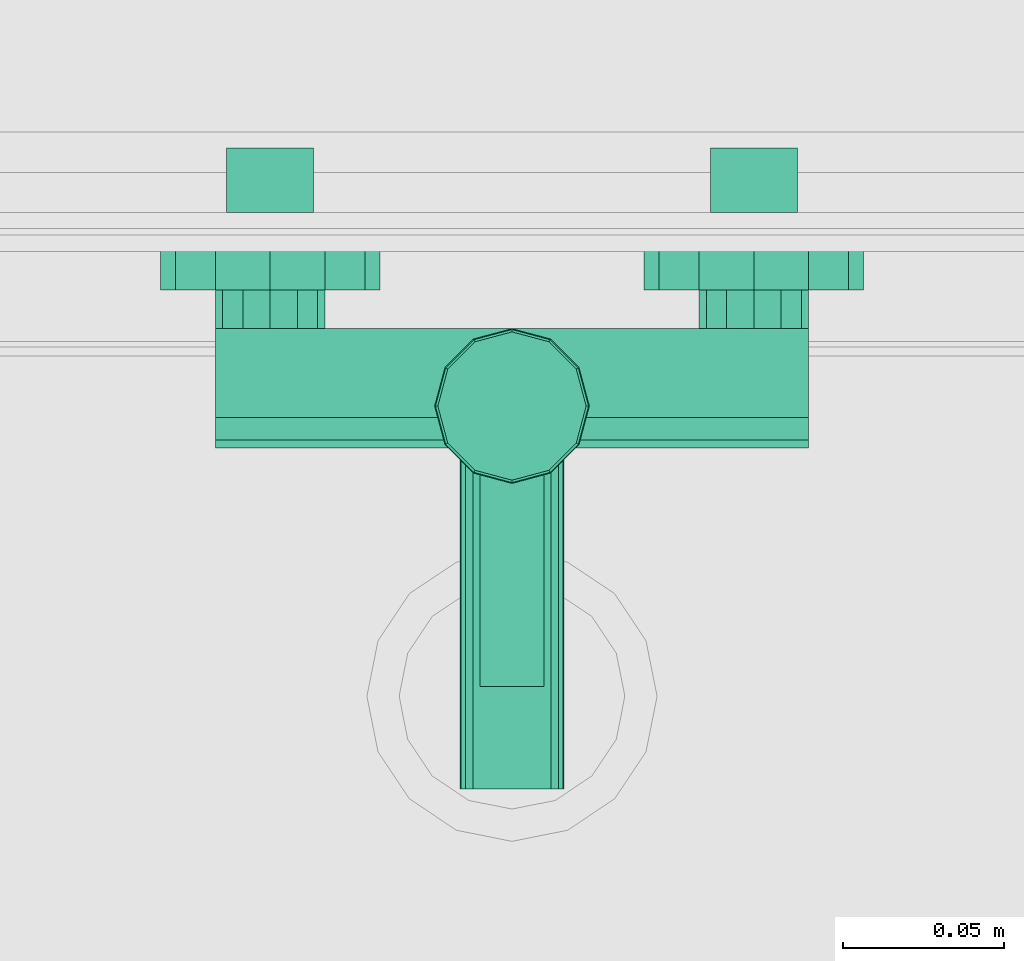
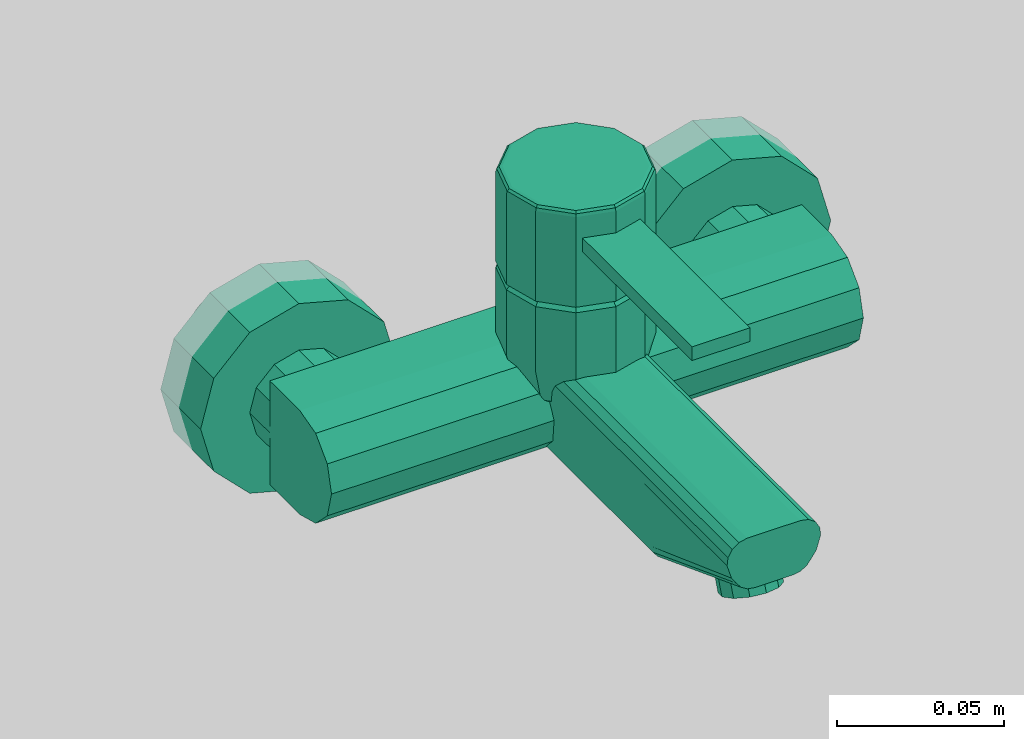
# One storey, part 122 of 165: 1 flow storage device.
"""IFC2X3 building model written with IfcOpenShell, lengths in millimetres."""

from ifc_helpers import new_model, entity, si_unit, converted_unit, derived_unit, money_unit, direction, frame, origin_with_axes, place, context, subcontext, project, spatial, open_shell, faceted_brep, surface_model, source, transform, mapped, type_object, type_shapes, element, save


model = new_model("IFC2X3")

# Units and contexts
model_context = context("Model", 3, precision=0.01, world=origin_with_axes(), true_north=direction((0.0, 1.0)))
body_context = subcontext(model_context, "Body", "Model", "MODEL_VIEW")
ifc_project = project(units=[si_unit("LENGTHUNIT", "METRE", prefix="MILLI"), si_unit("AREAUNIT", "SQUARE_METRE"), si_unit("VOLUMEUNIT", "CUBIC_METRE"), converted_unit("PLANEANGLEUNIT", "DEGREE", entity("IfcPlaneAngleMeasure", 0.0174532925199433), si_unit("PLANEANGLEUNIT", "RADIAN"), dimensions=[0, 0, 0, 0, 0, 0, 0]), money_unit("EUR"), converted_unit("TIMEUNIT", "Year", entity("IfcTimeMeasure", 31556926.0), si_unit("TIMEUNIT", "SECOND"), dimensions=[0, 0, 1, 0, 0, 0, 0]), si_unit("MASSUNIT", "GRAM", prefix="KILO"), si_unit("THERMODYNAMICTEMPERATUREUNIT", "DEGREE_CELSIUS"), si_unit("LUMINOUSINTENSITYUNIT", "LUMEN"), si_unit("ENERGYUNIT", "JOULE", prefix="MEGA"), derived_unit("THERMALCONDUCTANCEUNIT", [(si_unit("POWERUNIT", "WATT"), 1), (si_unit("LENGTHUNIT", "METRE"), -1), (si_unit("THERMODYNAMICTEMPERATUREUNIT", "KELVIN"), -1)]), derived_unit("SPECIFICHEATCAPACITYUNIT", [(si_unit("ENERGYUNIT", "JOULE"), 1), (si_unit("MASSUNIT", "GRAM", prefix="KILO"), -1), (si_unit("THERMODYNAMICTEMPERATUREUNIT", "KELVIN"), -1)]), derived_unit("MASSDENSITYUNIT", [(si_unit("MASSUNIT", "GRAM", prefix="KILO"), 1), (si_unit("VOLUMEUNIT", "CUBIC_METRE"), -1)])], contexts=[model_context])

# Site, building, storey
site_placement = place(None, origin_with_axes())
site = spatial("IfcSite", under=ifc_project, at=site_placement, Name="Site", CompositionType="ELEMENT")
building_placement = place(site_placement, origin_with_axes())
building = spatial("IfcBuilding", under=site, at=building_placement, Name="Naam gebouw", CompositionType="ELEMENT")
storey_placement = place(building_placement, origin_with_axes())
storey = spatial("IfcBuildingStorey", under=building, at=storey_placement, Name="Begane grond", CompositionType="ELEMENT", Elevation=0.0)

# Flow storage device
tank_type = type_object("IfcTankType", Name="Kraan wand 26", PredefinedType="EXPANSION")
shared_shape = source(origin_with_axes(), body_context, "Body", "SurfaceModel", [
    faceted_brep([(-45.55513627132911, 0.0, 1183.0), (-58.00000000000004, 0.0, 1170.555136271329), (-75.00000000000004, 0.0, 1166.0), (-92.00000000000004, 0.0, 1170.555136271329), (-104.4448637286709, 0.0, 1183.0), (-109.0, 0.0, 1200.0), (-104.4448637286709, 0.0, 1217.0), (-92.0, 0.0, 1229.444863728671), (-75.0, 0.0, 1234.0), (-58.0, 0.0, 1229.444863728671), (-45.5551362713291, 0.0, 1217.0), (-41.00000000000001, 0.0, 1200.0), (-45.55513627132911, -24.0, 1183.0), (-58.00000000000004, -24.0, 1170.555136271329), (-75.00000000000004, -24.0, 1166.0), (-92.00000000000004, -24.0, 1170.555136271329), (-104.4448637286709, -24.0, 1183.0), (-109.0, -24.0, 1200.0), (-104.4448637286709, -24.0, 1217.0), (-92.0, -24.0, 1229.444863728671), (-75.0, -24.0, 1234.0), (-58.0, -24.0, 1229.444863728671), (-45.5551362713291, -24.0, 1217.0), (-41.00000000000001, -24.0, 1200.0)], [[[0, 1, 2, 3, 4, 5, 6, 7, 8, 9, 10, 11]], [[1, 0, 12, 13]], [[2, 1, 13, 14]], [[3, 2, 14, 15]], [[4, 3, 15, 16]], [[5, 4, 16, 17]], [[6, 5, 17, 18]], [[7, 6, 18, 19]], [[8, 7, 19, 20]], [[9, 8, 20, 21]], [[10, 9, 21, 22]], [[11, 10, 22, 23]], [[0, 11, 23, 12]], [[12, 23, 22, 21, 20, 19, 18, 17, 16, 15, 14, 13]]]),
    faceted_brep([(-60.27756813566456, -24.0, 1191.5), (-66.50000000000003, -24.0, 1185.277568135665), (-75.00000000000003, -24.0, 1183.0), (-83.50000000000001, -24.0, 1185.277568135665), (-89.72243186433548, -24.0, 1191.5), (-92.00000000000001, -24.0, 1200.0), (-89.72243186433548, -24.0, 1208.5), (-83.5, -24.0, 1214.722431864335), (-75.00000000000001, -24.0, 1217.0), (-66.5, -24.0, 1214.722431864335), (-60.27756813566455, -24.0, 1208.5), (-58.00000000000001, -24.0, 1200.0), (-60.27756813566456, -36.00000000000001, 1191.5), (-66.50000000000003, -36.00000000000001, 1185.277568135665), (-75.00000000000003, -36.00000000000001, 1183.0), (-83.50000000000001, -36.00000000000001, 1185.277568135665), (-89.72243186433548, -36.00000000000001, 1191.5), (-92.00000000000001, -36.00000000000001, 1200.0), (-89.72243186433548, -36.00000000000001, 1208.5), (-83.5, -36.0, 1214.722431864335), (-75.00000000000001, -36.0, 1217.0), (-66.5, -36.0, 1214.722431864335), (-60.27756813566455, -36.00000000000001, 1208.5), (-58.00000000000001, -36.00000000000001, 1200.0)], [[[0, 1, 2, 3, 4, 5, 6, 7, 8, 9, 10, 11]], [[1, 0, 12, 13]], [[2, 1, 13, 14]], [[3, 2, 14, 15]], [[4, 3, 15, 16]], [[5, 4, 16, 17]], [[6, 5, 17, 18]], [[7, 6, 18, 19]], [[8, 7, 19, 20]], [[9, 8, 20, 21]], [[10, 9, 21, 22]], [[11, 10, 22, 23]], [[0, 11, 23, 12]], [[12, 23, 22, 21, 20, 19, 18, 17, 16, 15, 14, 13]]]),
    faceted_brep([(45.55513627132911, 0.0, 1183.0), (41.00000000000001, 0.0, 1200.0), (45.5551362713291, 0.0, 1217.0), (58.0, 0.0, 1229.444863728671), (75.0, 0.0, 1234.0), (92.0, 0.0, 1229.444863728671), (104.4448637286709, 0.0, 1217.0), (109.0, 0.0, 1200.0), (104.4448637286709, 0.0, 1183.0), (92.00000000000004, 0.0, 1170.555136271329), (75.00000000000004, 0.0, 1166.0), (58.00000000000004, 0.0, 1170.555136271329), (45.55513627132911, -24.0, 1183.0), (41.00000000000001, -24.0, 1200.0), (45.5551362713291, -24.0, 1217.0), (58.0, -24.0, 1229.444863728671), (75.0, -24.0, 1234.0), (92.0, -24.0, 1229.444863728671), (104.4448637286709, -24.0, 1217.0), (109.0, -24.0, 1200.0), (104.4448637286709, -24.0, 1183.0), (92.00000000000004, -24.0, 1170.555136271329), (75.00000000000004, -24.0, 1166.0), (58.00000000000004, -24.0, 1170.555136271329)], [[[0, 1, 2, 3, 4, 5, 6, 7, 8, 9, 10, 11]], [[0, 12, 13, 1]], [[1, 13, 14, 2]], [[2, 14, 15, 3]], [[3, 15, 16, 4]], [[4, 16, 17, 5]], [[5, 17, 18, 6]], [[6, 18, 19, 7]], [[7, 19, 20, 8]], [[8, 20, 21, 9]], [[9, 21, 22, 10]], [[10, 22, 23, 11]], [[11, 23, 12, 0]], [[12, 23, 22, 21, 20, 19, 18, 17, 16, 15, 14, 13]]]),
    faceted_brep([(60.27756813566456, -24.0, 1191.5), (58.00000000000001, -24.0, 1200.0), (60.27756813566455, -24.0, 1208.5), (66.5, -24.0, 1214.722431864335), (75.00000000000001, -24.0, 1217.0), (83.5, -24.0, 1214.722431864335), (89.72243186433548, -24.0, 1208.5), (92.00000000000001, -24.0, 1200.0), (89.72243186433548, -24.0, 1191.5), (83.50000000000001, -24.0, 1185.277568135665), (75.00000000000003, -24.0, 1183.0), (66.50000000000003, -24.0, 1185.277568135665), (60.27756813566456, -36.00000000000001, 1191.5), (58.00000000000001, -36.00000000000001, 1200.0), (60.27756813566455, -36.00000000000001, 1208.5), (66.5, -36.0, 1214.722431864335), (75.00000000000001, -36.0, 1217.0), (83.5, -36.0, 1214.722431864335), (89.72243186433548, -36.00000000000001, 1208.5), (92.00000000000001, -36.00000000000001, 1200.0), (89.72243186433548, -36.00000000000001, 1191.5), (83.50000000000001, -36.00000000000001, 1185.277568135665), (75.00000000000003, -36.00000000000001, 1183.0), (66.50000000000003, -36.00000000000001, 1185.277568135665)], [[[0, 1, 2, 3, 4, 5, 6, 7, 8, 9, 10, 11]], [[0, 12, 13, 1]], [[1, 13, 14, 2]], [[2, 14, 15, 3]], [[3, 15, 16, 4]], [[4, 16, 17, 5]], [[5, 17, 18, 6]], [[6, 18, 19, 7]], [[7, 19, 20, 8]], [[8, 20, 21, 9]], [[9, 21, 22, 10]], [[10, 22, 23, 11]], [[11, 23, 12, 0]], [[12, 23, 22, 21, 20, 19, 18, 17, 16, 15, 14, 13]]]),
    faceted_brep([(22.39230484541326, -54.0, 1219.0), (23.56921938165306, -59.99999999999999, 1217.392304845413), (22.3801085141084, -63.5, 1216.454482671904), (92.0, -63.5, 1216.454482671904), (92.0, -54.0, 1219.0), (24.0, -59.99999999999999, 1219.0), (20.78460969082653, -72.0, 1219.0), (18.42264973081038, -70.63632178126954, 1208.821367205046), (18.65321248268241, -70.45448267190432, 1209.5), (92.0, -70.45448267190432, 1209.5), (92.0, -36.00000000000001, 1181.0), (92.0, -36.00000000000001, 1219.0), (92.0, -73.00000000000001, 1200.0), (92.0, -70.45448267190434, 1190.5), (92.0, -63.5, 1183.545517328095), (92.0, -54.00000000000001, 1181.0), (20.78460969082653, -47.99999999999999, 1219.0), (0.0, -36.00000000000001, 1219.0), (12.0, -39.21539030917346, 1219.0), (20.78460969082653, -47.99999999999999, 1243.0), (24.0, -59.99999999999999, 1243.0), (20.78460969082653, -72.0, 1243.0), (17.26794919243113, -71.12435565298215, 1207.0), (12.00000000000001, -80.78460969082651, 1219.0), (11.92314238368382, -80.65148839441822, 1218.426326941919), (12.07189135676, -80.49116546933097, 1218.39470631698), (14.42686544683, -77.50984837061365, 1216.68350539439), (15.88213414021, -75.13176694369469, 1214.16233412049), (16.18602173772, -73.76818909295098, 1211.26720650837), (15.73684210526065, -72.65546274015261, 1207.0), (15.6314139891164, -71.39272474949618, 1205.998432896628), (14.99999999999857, -73.00000000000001, 1200.0), (-92.0, -36.00000000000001, 1181.0), (-92.0, -36.00000000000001, 1219.0), (14.00000000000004, -70.45448267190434, 1190.5), (12.93483876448, -64.77581392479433, 1184.82133125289), (11.95567316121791, -63.5, 1183.545517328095), (13.65970594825, -67.22168918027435, 1187.26720650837), (9.206486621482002, -55.73480068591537, 1181.46483844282), (6.698167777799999, -54.00000000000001, 1181.0), (11.38167317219, -60.70880215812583, 1182.79761812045), (-6.698167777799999, -54.00000000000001, 1181.0), (-92.0, -54.00000000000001, 1181.0), (6.698167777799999, -128.7, 1181.0), (-6.698167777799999, -128.7, 1181.0), (0.0, -36.00000000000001, 1243.0), (12.0, -39.21539030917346, 1243.0), (19.05255888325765, -48.99999999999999, 1245.0), (22.0, -59.99999999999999, 1245.0), (19.05255888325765, -71.0, 1245.0), (12.00000000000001, -80.78460969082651, 1243.0), (9.224483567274, -81.52830707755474, 1219.0), (9.224483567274, -178.7, 1219.0), (12.07189135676, -178.7, 1218.39470631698), (14.42686544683, -178.7, 1216.68350539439), (15.88213414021, -178.7, 1214.16233412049), (16.18602173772, -178.7, 1211.26720650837), (13.65970594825, -128.7, 1187.26720650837), (-92.0, -54.0, 1219.0), (-92.0, -63.5, 1183.545517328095), (-92.0, -70.45448267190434, 1190.5), (-92.0, -73.00000000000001, 1200.0), (-92.0, -70.45448267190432, 1209.5), (-92.0, -63.5, 1216.454482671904), (-12.00000000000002, -39.21539030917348, 1219.0), (-22.39230484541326, -54.0, 1219.0), (-20.78460969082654, -48.00000000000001, 1219.0), (12.93483876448, -128.7, 1184.82133125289), (11.38167317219, -128.7, 1182.79761812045), (9.206486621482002, -128.7, 1181.46483844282), (-11.38167317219, -60.70880215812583, 1182.79761812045), (-11.95567316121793, -63.5, 1183.545517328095), (-9.206486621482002, -55.73480068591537, 1181.46483844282), (-6.698167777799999, -156.6122297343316, 1191.606647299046), (6.698167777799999, -156.6122297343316, 1191.606647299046), (5.000000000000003, -155.02481037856, 1191.003427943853), (0.0, -153.7724378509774, 1190.527526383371), (-4.999999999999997, -155.02481037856, 1191.003427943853), (-9.206486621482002, -128.7, 1181.46483844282), (-12.00000000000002, -39.21539030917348, 1243.0), (0.0, -38.00000000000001, 1245.0), (11.0, -40.94744111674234, 1245.0), (-20.78460969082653, -47.99999999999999, 1245.0), (-12.0, -39.21539030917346, 1245.0), (0.0, -36.00000000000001, 1245.0), (12.00000000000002, -39.21539030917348, 1245.0), (20.78460969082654, -48.00000000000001, 1245.0), (24.0, -60.00000000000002, 1245.0), (20.78460969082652, -72.00000000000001, 1245.0), (11.99999999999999, -80.78460969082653, 1245.0), (0.0, -83.99999999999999, 1245.0), (-12.00000000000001, -80.78460969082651, 1245.0), (-20.78460969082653, -72.0, 1245.0), (-24.0, -59.99999999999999, 1245.0), (11.00000000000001, -79.05255888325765, 1245.0), (-11.00000000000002, -40.94744111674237, 1245.0), (-19.05255888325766, -49.00000000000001, 1245.0), (-22.0, -60.00000000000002, 1245.0), (-19.05255888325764, -71.00000000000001, 1245.0), (-10.99999999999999, -79.05255888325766, 1245.0), (0.0, -81.99999999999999, 1245.0), (0.0, -83.99999999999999, 1243.0), (0.0, -83.99999999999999, 1219.0), (-15.88213414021, -178.7, 1214.16233412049), (-16.18602173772, -178.7, 1211.26720650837), (-14.65970594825, -178.7, 1206.26720650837), (-12.93483876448, -178.7, 1203.82133125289), (-11.38167317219, -178.7, 1201.79761812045), (-9.206486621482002, -178.7, 1200.46483844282), (-6.698167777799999, -178.7, 1200.0), (6.698167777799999, -178.7, 1200.0), (9.206486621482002, -178.7, 1200.46483844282), (11.38167317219, -178.7, 1201.79761812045), (12.93483876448, -178.7, 1203.82133125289), (14.65970594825, -178.7, 1206.26720650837), (-9.224483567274, -178.7, 1219.0), (-12.07189135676, -178.7, 1218.39470631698), (-14.42686544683, -178.7, 1216.68350539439), (-9.224483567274, -81.52830707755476, 1219.0), (-13.65970594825, -67.22168918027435, 1187.26720650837), (-14.00000000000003, -70.45448267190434, 1190.5), (-12.93483876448, -64.77581392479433, 1184.82133125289), (-14.99999999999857, -73.00000000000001, 1200.0), (-18.42264973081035, -70.63632178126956, 1208.821367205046), (-18.65321248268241, -70.45448267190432, 1209.5), (-15.63141398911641, -71.39272474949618, 1205.998432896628), (-17.26794919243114, -71.12435565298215, 1207.0), (-22.38010851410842, -63.5, 1216.454482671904), (-23.56921938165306, -60.00000000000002, 1217.392304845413), (-24.0, -60.00000000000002, 1219.0), (-24.0, -60.00000000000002, 1243.0), (-20.78460969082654, -48.00000000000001, 1243.0), (9.206486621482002, -160.1976250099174, 1193.433935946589), (8.660254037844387, -158.3256179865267, 1192.621346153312), (9.206486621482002, -165.7342214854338, 1195.537842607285), (10.0, -162.8044792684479, 1194.910741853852), (-11.38167317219, -128.7, 1182.79761812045), (-12.93483876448, -128.7, 1184.82133125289), (-9.206486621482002, -160.1976250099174, 1193.433935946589), (-8.660254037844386, -158.3256179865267, 1192.621346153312), (8.660254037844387, -160.222444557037, 1187.629697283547), (5.000000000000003, -156.8008991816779, 1186.329510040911), (0.0, -155.5485266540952, 1185.85360848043), (-4.999999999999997, -156.8008991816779, 1186.329510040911), (-8.660254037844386, -160.222444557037, 1187.629697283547), (-20.78460969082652, -47.99999999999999, 1278.0), (-12.0, -39.21539030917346, 1278.0), (0.0, -36.00000000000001, 1278.0), (12.00000000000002, -39.21539030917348, 1278.0), (20.78460969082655, -48.00000000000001, 1278.0), (24.0, -60.00000000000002, 1278.0), (20.78460969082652, -72.00000000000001, 1278.0), (11.99999999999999, -80.78460969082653, 1278.0), (0.0, -83.99999999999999, 1278.0), (0.0, -83.99999999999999, 1270.0), (10.0, -81.32050807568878, 1270.0), (10.0, -81.32050807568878, 1265.0), (0.0, -83.99999999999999, 1265.0), (-10.0, -81.32050807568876, 1265.0), (-10.0, -81.32050807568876, 1270.0), (-12.00000000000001, -80.78460969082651, 1278.0), (-20.78460969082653, -72.0, 1278.0), (-24.0, -59.99999999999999, 1278.0), (-20.78460969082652, -72.00000000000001, 1243.0), (-11.99999999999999, -80.78460969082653, 1243.0), (-11.99999999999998, -80.78460969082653, 1219.0), (-15.88213414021, -75.1317669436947, 1214.16233412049), (-16.18602173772, -73.76818909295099, 1211.26720650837), (-16.18602173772, -128.7, 1211.26720650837), (-13.65970594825, -128.7, 1187.26720650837), (-10.0, -162.8044792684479, 1194.910741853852), (-9.206486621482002, -165.7342214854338, 1195.537842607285), (-8.66025403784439, -167.6734537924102, 1196.173523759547), (-6.698167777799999, -169.6283175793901, 1196.552760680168), (0.0, -172.4681094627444, 1197.631881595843), (4.999999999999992, -171.2157369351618, 1197.155980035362), (6.698167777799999, -169.6283175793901, 1196.552760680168), (-5.000000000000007, -171.2157369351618, 1197.155980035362), (8.660254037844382, -167.6734537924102, 1196.173523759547), (-11.92314238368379, -80.65148839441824, 1218.426326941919), (-12.07189135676, -80.49116546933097, 1218.39470631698), (-14.42686544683, -77.50984837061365, 1216.68350539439), (-15.73684210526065, -72.65546274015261, 1207.0), (-20.78460969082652, -72.00000000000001, 1219.0), (10.0, -164.8963624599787, 1189.405786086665), (8.660254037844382, -169.5702803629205, 1191.181874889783), (-10.0, -164.8963624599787, 1189.405786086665), (4.999999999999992, -172.9918257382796, 1192.48206213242), (0.0, -174.2441982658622, 1192.957963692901), (-5.000000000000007, -172.9918257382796, 1192.48206213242), (-8.66025403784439, -169.5702803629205, 1191.181874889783), (-20.55255888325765, -48.13397459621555, 1279.0), (-11.86602540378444, -39.44744111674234, 1279.0), (0.0, -36.26794919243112, 1279.0), (11.86602540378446, -39.44744111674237, 1279.0), (20.55255888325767, -48.13397459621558, 1279.0), (23.73205080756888, -60.00000000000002, 1279.0), (20.55255888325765, -71.86602540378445, 1279.0), (11.86602540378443, -80.55255888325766, 1279.0), (10.0, -147.0, 1270.0), (-10.0, -147.0, 1270.0), (10.0, -147.0, 1265.0), (-10.0, -147.0, 1265.0), (0.0, -83.73205080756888, 1279.0), (-11.86602540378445, -80.55255888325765, 1279.0), (-20.55255888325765, -71.86602540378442, 1279.0), (-23.73205080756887, -59.99999999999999, 1279.0), (-19.91858428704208, -48.49999999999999, 1279.732050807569), (-11.5, -40.08141571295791, 1279.732050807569), (0.0, -37.00000000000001, 1279.732050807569), (11.50000000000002, -40.08141571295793, 1279.732050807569), (19.9185842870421, -48.50000000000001, 1279.732050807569), (23.0, -60.00000000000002, 1279.732050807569), (19.91858428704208, -71.50000000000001, 1279.732050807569), (11.49999999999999, -79.9185842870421, 1279.732050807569), (0.0, -82.99999999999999, 1279.732050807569), (-11.50000000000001, -79.91858428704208, 1279.732050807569), (-19.91858428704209, -71.5, 1279.732050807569), (-23.0, -59.99999999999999, 1279.732050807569), (-19.05255888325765, -48.99999999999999, 1280.0), (-11.0, -40.94744111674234, 1280.0), (0.0, -38.00000000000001, 1280.0), (11.00000000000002, -40.94744111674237, 1280.0), (19.05255888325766, -49.00000000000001, 1280.0), (22.0, -60.00000000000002, 1280.0), (19.05255888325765, -71.00000000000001, 1280.0), (10.99999999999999, -79.05255888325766, 1280.0), (0.0, -81.99999999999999, 1280.0), (-11.00000000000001, -79.05255888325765, 1280.0), (-19.05255888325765, -71.0, 1280.0), (-22.0, -59.99999999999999, 1280.0), (0.0, -60.0, 1280.0)], [[[0, 1, 2, 3, 4]], [[1, 0, 5]], [[2, 1, 5, 6, 7, 8]], [[2, 8, 9, 3]], [[10, 11, 4, 3, 9, 12, 13, 14, 15]], [[16, 0, 4, 11, 17, 18]], [[0, 16, 19, 20, 5]], [[20, 21, 6, 5]], [[22, 7, 6, 23, 24, 25, 26, 27, 28, 29]], [[30, 31, 12, 9, 8, 7, 22]], [[10, 32, 33, 17, 11]], [[31, 34, 13, 12]], [[35, 36, 14, 13, 34, 37]], [[38, 39, 15, 14, 36, 40]], [[41, 42, 32, 10, 15, 39, 43, 44]], [[18, 17, 45, 46]], [[16, 18, 46, 19]], [[19, 47, 48, 20]], [[20, 48, 49, 21]], [[21, 50, 23, 6]], [[23, 51, 24]], [[52, 53, 25, 24, 51]], [[53, 54, 26, 25]], [[54, 55, 27, 26]], [[56, 28, 27, 55]], [[31, 30, 29, 28, 56, 57, 37, 34]], [[30, 22, 29]], [[58, 33, 32, 42, 59, 60, 61, 62, 63]], [[64, 17, 33, 58, 65, 66]], [[36, 35, 67, 68, 40]], [[35, 37, 57, 67]], [[39, 38, 69, 43]], [[38, 40, 68, 69]], [[70, 71, 59, 42, 41, 72]], [[73, 44, 43, 74, 75, 76, 77]], [[72, 41, 44, 78]], [[17, 64, 79, 45]], [[45, 80, 81, 46]], [[46, 81, 47, 19]], [[82, 83, 84, 85, 86, 87, 88, 89, 90, 91, 92, 93], [94, 49, 48, 47, 81, 80, 95, 96, 97, 98, 99, 100]], [[21, 49, 94, 50]], [[101, 102, 51, 23, 50]], [[103, 104, 105, 106, 107, 108, 109, 110, 111, 112, 113, 114, 56, 55, 54, 53, 52, 115, 116, 117]], [[115, 52, 51, 102, 118]], [[56, 114, 57]], [[119, 120, 60, 59, 71, 121]], [[120, 122, 61, 60]], [[123, 124, 62, 61, 122, 125, 126]], [[124, 127, 63, 62]], [[128, 65, 58, 63, 127]], [[66, 65, 129, 130, 131]], [[64, 66, 131, 79]], [[112, 68, 67, 113]], [[114, 67, 57]], [[74, 43, 69, 132, 133]], [[132, 69, 68, 112, 111, 134, 135]], [[71, 70, 136, 137, 121]], [[70, 72, 78, 136]], [[138, 78, 44, 73, 139]], [[75, 74, 133, 140, 141]], [[142, 76, 75, 141]], [[143, 77, 76, 142]], [[139, 73, 77, 143, 144]], [[79, 95, 80, 45]], [[83, 82, 145, 146]], [[84, 83, 146, 147]], [[85, 84, 147, 148]], [[86, 85, 148, 149]], [[87, 86, 149, 150]], [[88, 87, 150, 151]], [[89, 88, 151, 152]], [[153, 154, 155, 156, 157, 90, 89, 152]], [[158, 159, 154, 153, 160, 91, 90, 157]], [[92, 91, 160, 161]], [[93, 92, 161, 162]], [[82, 93, 162, 145]], [[131, 96, 95, 79]], [[130, 97, 96, 131]], [[163, 98, 97, 130]], [[164, 99, 98, 163]], [[101, 100, 99, 164]], [[50, 94, 100, 101]], [[165, 118, 102, 101, 164]], [[104, 103, 166, 167, 168]], [[105, 104, 168]], [[106, 105, 169]], [[106, 137, 136, 107]], [[107, 136, 78, 138, 170, 171, 108]], [[171, 172, 173, 109, 108]], [[174, 175, 176, 110, 109, 173, 177]], [[176, 178, 134, 111, 110]], [[114, 113, 67]], [[116, 115, 118, 179, 180]], [[117, 116, 180, 181]], [[103, 117, 181, 166]], [[120, 119, 169, 168, 167, 182, 125, 122]], [[119, 121, 137, 169]], [[124, 123, 183, 129, 128, 127]], [[126, 125, 182]], [[123, 126, 182, 167, 166, 181, 180, 179, 165, 183]], [[65, 128, 129]], [[163, 130, 129, 183]], [[133, 132, 135, 184, 140]], [[135, 134, 178, 185, 184]], [[170, 138, 139, 144, 186]], [[140, 184, 185, 187, 188, 189, 190, 186, 144, 143, 142, 141]], [[146, 145, 191, 192]], [[147, 146, 192, 193]], [[148, 147, 193, 194]], [[149, 148, 194, 195]], [[150, 149, 195, 196]], [[151, 150, 196, 197]], [[152, 151, 197, 198]], [[199, 155, 154, 159, 200]], [[201, 156, 155, 199]], [[158, 157, 156, 201, 202]], [[153, 152, 198, 203]], [[200, 159, 158, 202]], [[160, 153, 203, 204]], [[161, 160, 204, 205]], [[162, 161, 205, 206]], [[145, 162, 206, 191]], [[164, 163, 183, 165]], [[165, 179, 118]], [[105, 168, 169]], [[106, 169, 137]], [[172, 171, 170, 186, 190]], [[177, 173, 172, 190, 189]], [[187, 175, 174, 188]], [[178, 176, 175, 187, 185]], [[188, 174, 177, 189]], [[192, 191, 207, 208]], [[193, 192, 208, 209]], [[194, 193, 209, 210]], [[195, 194, 210, 211]], [[196, 195, 211, 212]], [[197, 196, 212, 213]], [[198, 197, 213, 214]], [[199, 200, 202, 201]], [[203, 198, 214, 215]], [[204, 203, 215, 216]], [[205, 204, 216, 217]], [[206, 205, 217, 218]], [[191, 206, 218, 207]], [[208, 207, 219, 220]], [[209, 208, 220, 221]], [[210, 209, 221, 222]], [[211, 210, 222, 223]], [[212, 211, 223, 224]], [[213, 212, 224, 225]], [[214, 213, 225, 226]], [[215, 214, 226, 227]], [[216, 215, 227, 228]], [[217, 216, 228, 229]], [[218, 217, 229, 230]], [[207, 218, 230, 219]], [[220, 219, 231]], [[221, 220, 231]], [[222, 221, 231]], [[223, 222, 231]], [[224, 223, 231]], [[225, 224, 231]], [[226, 225, 231]], [[227, 226, 231]], [[228, 227, 231]], [[229, 228, 231]], [[230, 229, 231]], [[219, 230, 231]]]),
    surface_model("IfcShellBasedSurfaceModel", [(-75.0, 0.0, 1186.5), (-77.34425039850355, 0.0, 1186.705095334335), (-77.34425039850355, 20.0, 1186.705095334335), (-75.0, 20.0, 1186.5), (-79.61727193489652, 0.0, 1187.31414961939), (-79.61727193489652, 20.0, 1187.31414961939), (-72.65574960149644, 0.0, 1186.705095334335), (-72.65574960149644, 20.0, 1186.705095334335), (-81.74999999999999, 0.0, 1188.30865704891), (-81.74999999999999, 20.0, 1188.30865704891), (-70.38272806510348, 0.0, 1187.31414961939), (-70.38272806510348, 20.0, 1187.31414961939), (-83.67763273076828, 0.0, 1189.658400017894), (-83.67763273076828, 20.0, 1189.658400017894), (-68.25, 0.0, 1188.30865704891), (-68.25, 20.0, 1188.30865704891), (-85.34159998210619, 0.0, 1191.322367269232), (-85.34159998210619, 20.0, 1191.322367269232), (-66.32236726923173, 0.0, 1189.658400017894), (-66.32236726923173, 20.0, 1189.658400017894), (-86.69134295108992, 0.0, 1193.25), (-86.69134295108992, 20.0, 1193.25), (-64.65840001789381, 0.0, 1191.322367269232), (-64.65840001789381, 20.0, 1191.322367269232), (-87.68585038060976, 0.0, 1195.382728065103), (-87.68585038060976, 20.0, 1195.382728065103), (-63.30865704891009, 0.0, 1193.25), (-63.30865704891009, 20.0, 1193.25), (-88.2949046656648, 0.0, 1197.655749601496), (-88.2949046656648, 20.0, 1197.655749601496), (-62.31414961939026, 0.0, 1195.382728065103), (-62.31414961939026, 20.0, 1195.382728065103), (-88.5, 0.0, 1200.0), (-88.5, 20.0, 1200.0), (-61.7050953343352, 0.0, 1197.655749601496), (-61.7050953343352, 20.0, 1197.655749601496), (-88.2949046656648, 0.0, 1202.344250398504), (-88.2949046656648, 20.0, 1202.344250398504), (-61.50000000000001, 0.0, 1200.0), (-61.50000000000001, 20.0, 1200.0), (-87.68585038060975, 0.0, 1204.617271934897), (-87.68585038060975, 20.0, 1204.617271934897), (-61.7050953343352, 0.0, 1202.344250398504), (-61.7050953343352, 20.0, 1202.344250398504), (-86.69134295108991, 0.0, 1206.75), (-86.69134295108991, 20.0, 1206.75), (-62.31414961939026, 0.0, 1204.617271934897), (-62.31414961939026, 20.0, 1204.617271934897), (-85.34159998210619, 0.0, 1208.677632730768), (-85.34159998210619, 20.0, 1208.677632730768), (-63.30865704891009, 0.0, 1206.75), (-63.30865704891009, 20.0, 1206.75), (-83.67763273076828, 0.0, 1210.341599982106), (-83.67763273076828, 20.0, 1210.341599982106), (-64.6584000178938, 0.0, 1208.677632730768), (-64.6584000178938, 20.0, 1208.677632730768), (-81.74999999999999, 0.0, 1211.69134295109), (-81.74999999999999, 20.0, 1211.69134295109), (-66.32236726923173, 0.0, 1210.341599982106), (-66.32236726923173, 20.0, 1210.341599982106), (-79.61727193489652, 0.0, 1212.68585038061), (-79.61727193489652, 20.0, 1212.68585038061), (-68.25, 0.0, 1211.69134295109), (-68.25, 20.0, 1211.69134295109), (-77.34425039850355, 0.0, 1213.294904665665), (-77.34425039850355, 20.0, 1213.294904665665), (-70.38272806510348, 0.0, 1212.68585038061), (-70.38272806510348, 20.0, 1212.68585038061), (-75.0, 0.0, 1213.5), (-75.0, 20.0, 1213.5), (-72.65574960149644, 0.0, 1213.294904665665), (-72.65574960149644, 20.0, 1213.294904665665)], [open_shell([[[0, 1, 2, 3]], [[1, 4, 5, 2]], [[6, 0, 3, 7]], [[4, 8, 9, 5]], [[10, 6, 7, 11]], [[8, 12, 13, 9]], [[14, 10, 11, 15]], [[12, 16, 17, 13]], [[18, 14, 15, 19]], [[16, 20, 21, 17]], [[22, 18, 19, 23]], [[20, 24, 25, 21]], [[26, 22, 23, 27]], [[24, 28, 29, 25]], [[30, 26, 27, 31]], [[28, 32, 33, 29]], [[34, 30, 31, 35]], [[32, 36, 37, 33]], [[38, 34, 35, 39]], [[36, 40, 41, 37]], [[42, 38, 39, 43]], [[40, 44, 45, 41]], [[46, 42, 43, 47]], [[44, 48, 49, 45]], [[50, 46, 47, 51]], [[48, 52, 53, 49]], [[54, 50, 51, 55]], [[52, 56, 57, 53]], [[58, 54, 55, 59]], [[56, 60, 61, 57]], [[62, 58, 59, 63]], [[60, 64, 65, 61]], [[66, 62, 63, 67]], [[64, 68, 69, 65]], [[70, 66, 67, 71]], [[68, 70, 71, 69]]])]),
    surface_model("IfcShellBasedSurfaceModel", [(75.0, 0.0, 1186.5), (72.65574960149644, 0.0, 1186.705095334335), (72.65574960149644, 20.0, 1186.705095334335), (75.0, 20.0, 1186.5), (70.38272806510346, 0.0, 1187.31414961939), (70.38272806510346, 20.0, 1187.31414961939), (77.34425039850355, 0.0, 1186.705095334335), (77.34425039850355, 20.0, 1186.705095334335), (68.25, 0.0, 1188.30865704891), (68.25, 20.0, 1188.30865704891), (79.61727193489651, 0.0, 1187.31414961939), (79.61727193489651, 20.0, 1187.31414961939), (66.32236726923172, 0.0, 1189.658400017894), (66.32236726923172, 20.0, 1189.658400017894), (81.74999999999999, 0.0, 1188.30865704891), (81.74999999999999, 20.0, 1188.30865704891), (64.6584000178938, 0.0, 1191.322367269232), (64.6584000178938, 20.0, 1191.322367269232), (83.67763273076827, 0.0, 1189.658400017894), (83.67763273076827, 20.0, 1189.658400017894), (63.30865704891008, 0.0, 1193.25), (63.30865704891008, 20.0, 1193.25), (85.34159998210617, 0.0, 1191.322367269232), (85.34159998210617, 20.0, 1191.322367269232), (62.31414961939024, 0.0, 1195.382728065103), (62.31414961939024, 20.0, 1195.382728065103), (86.69134295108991, 0.0, 1193.25), (86.69134295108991, 20.0, 1193.25), (61.70509533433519, 0.0, 1197.655749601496), (61.70509533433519, 20.0, 1197.655749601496), (87.68585038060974, 0.0, 1195.382728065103), (87.68585038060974, 20.0, 1195.382728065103), (61.5, 0.0, 1200.0), (61.5, 20.0, 1200.0), (88.29490466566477, 0.0, 1197.655749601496), (88.29490466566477, 20.0, 1197.655749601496), (61.70509533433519, 0.0, 1202.344250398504), (61.70509533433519, 20.0, 1202.344250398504), (88.49999999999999, 0.0, 1200.0), (88.49999999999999, 20.0, 1200.0), (62.31414961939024, 0.0, 1204.617271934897), (62.31414961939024, 20.0, 1204.617271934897), (88.29490466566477, 0.0, 1202.344250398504), (88.29490466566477, 20.0, 1202.344250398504), (63.30865704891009, 0.0, 1206.75), (63.30865704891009, 20.0, 1206.75), (87.68585038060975, 0.0, 1204.617271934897), (87.68585038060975, 20.0, 1204.617271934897), (64.6584000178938, 0.0, 1208.677632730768), (64.6584000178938, 20.0, 1208.677632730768), (86.69134295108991, 0.0, 1206.75), (86.69134295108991, 20.0, 1206.75), (66.32236726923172, 0.0, 1210.341599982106), (66.32236726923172, 20.0, 1210.341599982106), (85.34159998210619, 0.0, 1208.677632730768), (85.34159998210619, 20.0, 1208.677632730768), (68.25, 0.0, 1211.69134295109), (68.25, 20.0, 1211.69134295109), (83.67763273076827, 0.0, 1210.341599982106), (83.67763273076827, 20.0, 1210.341599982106), (70.38272806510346, 0.0, 1212.68585038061), (70.38272806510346, 20.0, 1212.68585038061), (81.74999999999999, 0.0, 1211.69134295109), (81.74999999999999, 20.0, 1211.69134295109), (72.65574960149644, 0.0, 1213.294904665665), (72.65574960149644, 20.0, 1213.294904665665), (79.61727193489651, 0.0, 1212.68585038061), (79.61727193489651, 20.0, 1212.68585038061), (75.0, 0.0, 1213.5), (75.0, 20.0, 1213.5), (77.34425039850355, 0.0, 1213.294904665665), (77.34425039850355, 20.0, 1213.294904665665)], [open_shell([[[0, 1, 2, 3]], [[1, 4, 5, 2]], [[6, 0, 3, 7]], [[4, 8, 9, 5]], [[10, 6, 7, 11]], [[8, 12, 13, 9]], [[14, 10, 11, 15]], [[12, 16, 17, 13]], [[18, 14, 15, 19]], [[16, 20, 21, 17]], [[22, 18, 19, 23]], [[20, 24, 25, 21]], [[26, 22, 23, 27]], [[24, 28, 29, 25]], [[30, 26, 27, 31]], [[28, 32, 33, 29]], [[34, 30, 31, 35]], [[32, 36, 37, 33]], [[38, 34, 35, 39]], [[36, 40, 41, 37]], [[42, 38, 39, 43]], [[40, 44, 45, 41]], [[46, 42, 43, 47]], [[44, 48, 49, 45]], [[50, 46, 47, 51]], [[48, 52, 53, 49]], [[54, 50, 51, 55]], [[52, 56, 57, 53]], [[58, 54, 55, 59]], [[56, 60, 61, 57]], [[62, 58, 59, 63]], [[60, 64, 65, 61]], [[66, 62, 63, 67]], [[64, 68, 69, 65]], [[70, 66, 67, 71]], [[68, 70, 71, 69]]])]),
])
type_shapes(tank_type, [shared_shape])
flow_storage_device_placement = place(storey_placement, frame((26961.00000000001, 18211.00040971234, 0.0), z_axis=(0.0, 0.0, 1.0), x_axis=(1.0, 0.0, 0.0)))
element("IfcFlowStorageDevice", 1, at=flow_storage_device_placement, inside=storey, type_object=tank_type, Name="56_Leeg", context=body_context, shape_type="MappedRepresentation", body=[
    mapped(shared_shape, transform((0.0, 0.0, 0.0))),
])

save(model, "model.ifc")
